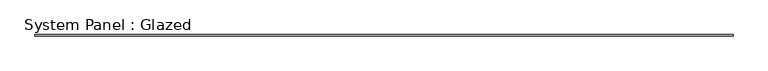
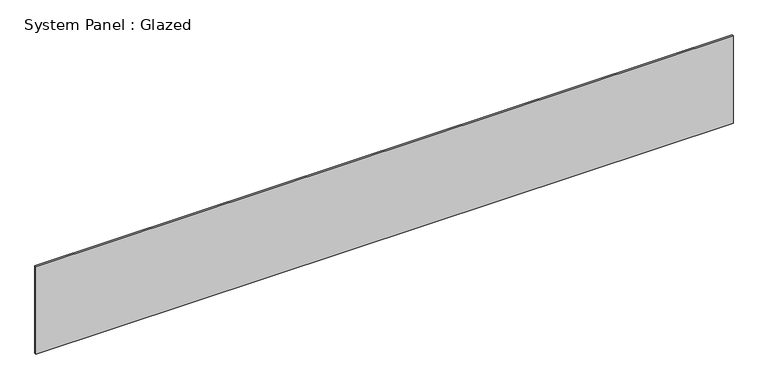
"""IFC4 building model written with IfcOpenShell, lengths in millimetres: plate geometry, System Panel : Glazed."""

from ifc_helpers import new_model, si_unit, origin, origin_with_axes, place, context, project, spatial, polyline, outline, extrude, source, transform, mapped, element, save


def system_panel_glazed_745bbd44(model_context):
    return source(origin(), model_context, "Body", "SweptSolid", [
        extrude(outline(polyline([(6000.0, -12.5), (-6000.0, -12.5), (-6000.0, 12.5), (6000.0, 12.5), (6000.0, -12.5)])), origin_with_axes(), (0.0, 0.0, 1.0), 1590.1991882),
    ])


if __name__ == "__main__":
    model = new_model("IFC4")
    model_context = context("Model", 3, world=origin())
    ifc_project = project(units=[si_unit("LENGTHUNIT", "METRE", prefix="MILLI")], contexts=[model_context])
    site = spatial("IfcSite", under=ifc_project)
    building = spatial("IfcBuilding", under=site)
    placement = place(None, origin())
    system_panel_glazed_shape = system_panel_glazed_745bbd44(model_context)
    element("IfcPlate", 1, ObjectType="System Panel : Glazed", at=placement, inside=building, context=model_context, shape_type="MappedRepresentation", body=[
        mapped(system_panel_glazed_shape, transform((0.0, 0.0, 0.0), x_axis=(1.0, 0.0, 0.0), y_axis=(0.0, 1.0, 0.0), z_axis=(0.0, 0.0, 1.0))),
    ])
    save(model, "model.ifc")
